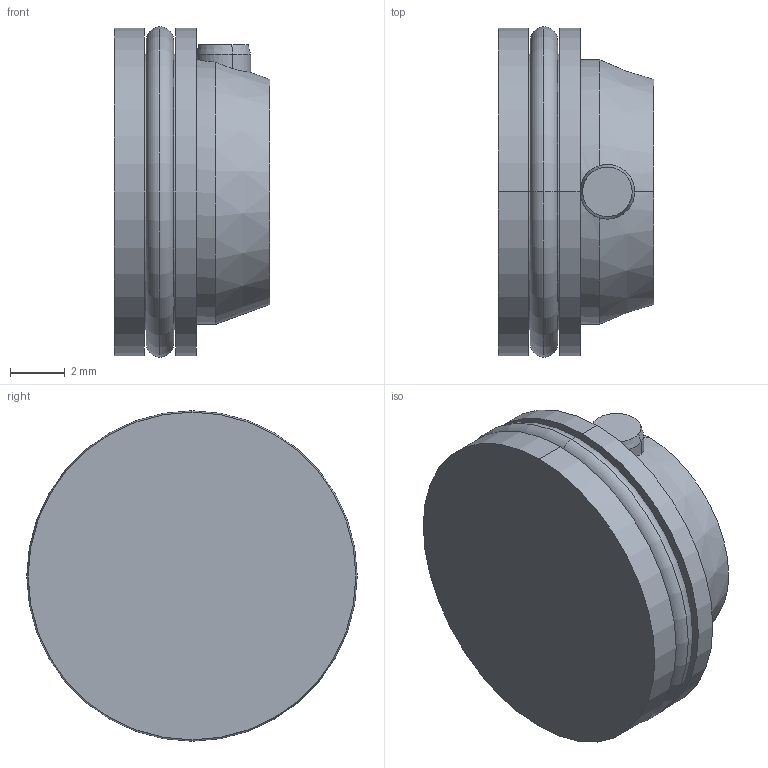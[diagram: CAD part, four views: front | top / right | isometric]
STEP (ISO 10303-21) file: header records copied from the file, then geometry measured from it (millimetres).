
FILE_DESCRIPTION (( 'STEP AP214' ), '1' );
FILE_NAME ('II121203.STEP', '2013-06-26T10:45:50', ( '' ), ( '' ), 'SwSTEP 2.0', 'SolidWorks 2011', '' );
FILE_SCHEMA (( 'AUTOMOTIVE_DESIGN' ));
Length unit declared in the file: millimetre
Products named in the file (4): II.121203; Parallel Pin Unhardened_DIN_Parallel Pin ISO 2338 - 2 h6 x 6 - St; II121203; NBR10x1
Assembly tree (3 placements, depth 2):
  II121203
    Parallel Pin Unhardened_DIN_Parallel Pin ISO 2338 - 2 h6 x 6 - St
    II.121203
    NBR10x1
Bounding box: 5.7 x 12.1 x 12.1 mm (x, y, z)
Volume: 508.8 mm3; surface area: 644.4 mm2
Topology: 3 solids, 3 shells, 31 faces, 61 edges, 35 vertices
Faces by surface type: cylinder 12, cone 8, plane 7, torus 4
Entity records: 969 total; most frequent: CARTESIAN_POINT 165, DIRECTION 165, ORIENTED_EDGE 118, AXIS2_PLACEMENT_3D 73, EDGE_CURVE 59, CIRCLE 36, VERTEX_POINT 35, EDGE_LOOP 34
